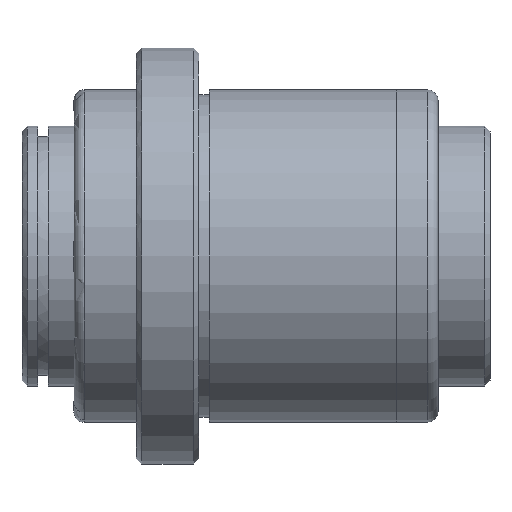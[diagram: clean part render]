
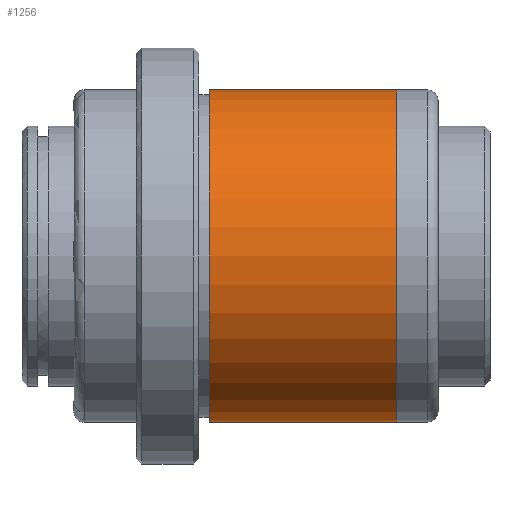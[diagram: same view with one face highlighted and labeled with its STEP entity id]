
A CAD part, front view. The second image highlights one B-rep face of the part: STEP entity #1256.
In plain terms, the highlighted cylindrical face has radius 16 mm (diameter 32 mm), a partial arc.
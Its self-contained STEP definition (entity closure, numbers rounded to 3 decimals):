
#1090=CARTESIAN_POINT('Vertex',(31.,0.,16.)) ;
#1093=CARTESIAN_POINT('Axis2P3D Location',(31.,0.,0.)) ;
#1097=CARTESIAN_POINT('Vertex',(31.,-16.,0.)) ;
#1100=CARTESIAN_POINT('Axis2P3D Location',(31.,0.,0.)) ;
#1104=CARTESIAN_POINT('Vertex',(31.,0.,-16.)) ;
#1196=CARTESIAN_POINT('Line Origine',(35.,0.,16.)) ;
#1200=CARTESIAN_POINT('Vertex',(13.,0.,16.)) ;
#1203=CARTESIAN_POINT('Line Origine',(35.,0.,-16.)) ;
#1207=CARTESIAN_POINT('Vertex',(13.,0.,-16.)) ;
#1231=CARTESIAN_POINT('Axis2P3D Location',(35.,0.,0.)) ;
#1236=CARTESIAN_POINT('Axis2P3D Location',(13.,0.,0.)) ;
#1240=CARTESIAN_POINT('Vertex',(13.,-16.,0.)) ;
#1243=CARTESIAN_POINT('Axis2P3D Location',(13.,0.,0.)) ;
#1094=DIRECTION('Axis2P3D Direction',(1.,0.,-0.)) ;
#1101=DIRECTION('Axis2P3D Direction',(1.,0.,-0.)) ;
#1197=DIRECTION('Vector Direction',(-1.,0.,0.)) ;
#1204=DIRECTION('Vector Direction',(-1.,0.,0.)) ;
#1232=DIRECTION('Axis2P3D Direction',(-1.,-0.,-0.)) ;
#1233=DIRECTION('Axis2P3D XDirection',(0.,0.,-1.)) ;
#1237=DIRECTION('Axis2P3D Direction',(-1.,-0.,-0.)) ;
#1244=DIRECTION('Axis2P3D Direction',(-1.,-0.,-0.)) ;
#1095=AXIS2_PLACEMENT_3D('Circle Axis2P3D',#1093,#1094,$) ;
#1102=AXIS2_PLACEMENT_3D('Circle Axis2P3D',#1100,#1101,$) ;
#1234=AXIS2_PLACEMENT_3D('Cylinder Axis2P3D',#1231,#1232,#1233) ;
#1238=AXIS2_PLACEMENT_3D('Circle Axis2P3D',#1236,#1237,$) ;
#1245=AXIS2_PLACEMENT_3D('Circle Axis2P3D',#1243,#1244,$) ;
#1249=ORIENTED_EDGE('',*,*,#1209,.T.) ;
#1250=ORIENTED_EDGE('',*,*,#1106,.F.) ;
#1251=ORIENTED_EDGE('',*,*,#1099,.F.) ;
#1252=ORIENTED_EDGE('',*,*,#1202,.T.) ;
#1253=ORIENTED_EDGE('',*,*,#1242,.T.) ;
#1254=ORIENTED_EDGE('',*,*,#1247,.T.) ;
#1198=VECTOR('Line Direction',#1197,1.) ;
#1205=VECTOR('Line Direction',#1204,1.) ;
#1256=ADVANCED_FACE('732-20',(#1255),#1235,.T.) ;
#1096=CIRCLE('generated circle',#1095,16.) ;
#1103=CIRCLE('generated circle',#1102,16.) ;
#1239=CIRCLE('generated circle',#1238,16.) ;
#1246=CIRCLE('generated circle',#1245,16.) ;
#1235=CYLINDRICAL_SURFACE('generated cylinder',#1234,16.) ;
#1099=EDGE_CURVE('',#1091,#1098,#1096,.T.) ;
#1106=EDGE_CURVE('',#1098,#1105,#1103,.T.) ;
#1202=EDGE_CURVE('',#1091,#1201,#1199,.T.) ;
#1209=EDGE_CURVE('',#1208,#1105,#1206,.F.) ;
#1242=EDGE_CURVE('',#1201,#1241,#1239,.F.) ;
#1247=EDGE_CURVE('',#1241,#1208,#1246,.F.) ;
#1248=EDGE_LOOP('',(#1249,#1250,#1251,#1252,#1253,#1254)) ;
#1255=FACE_OUTER_BOUND('',#1248,.T.) ;
#1199=LINE('Line',#1196,#1198) ;
#1206=LINE('Line',#1203,#1205) ;
#1091=VERTEX_POINT('',#1090) ;
#1098=VERTEX_POINT('',#1097) ;
#1105=VERTEX_POINT('',#1104) ;
#1201=VERTEX_POINT('',#1200) ;
#1208=VERTEX_POINT('',#1207) ;
#1241=VERTEX_POINT('',#1240) ;
